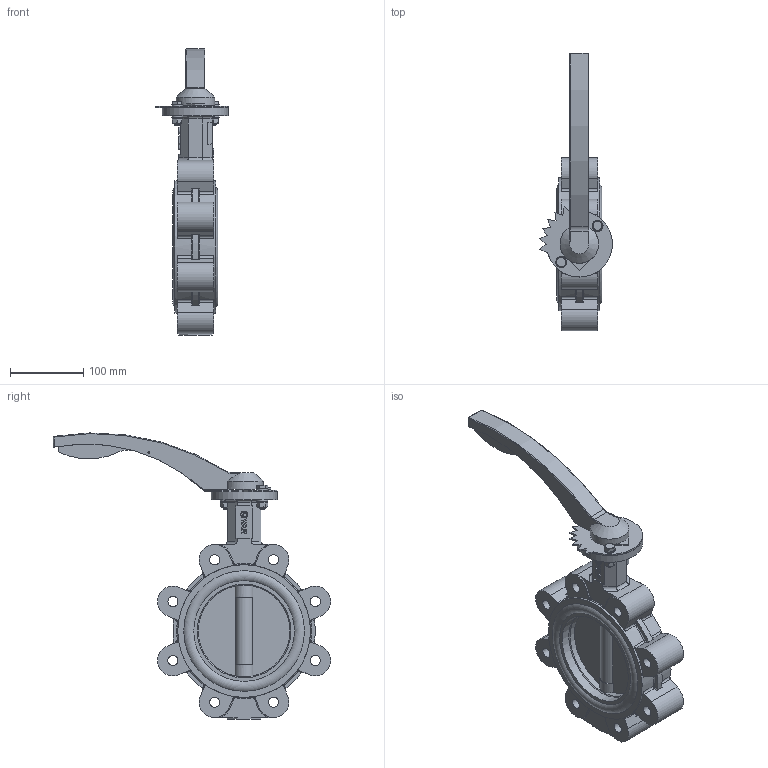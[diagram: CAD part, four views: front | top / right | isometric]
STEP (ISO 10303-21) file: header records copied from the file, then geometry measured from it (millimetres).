
FILE_DESCRIPTION(('STEP AP242'), '1');
FILE_NAME('Ïîâîðîòíûé çàòâîð ïîä ýëåêòðîïðèâîä', '', ('UNSPECIFIED'), ('UNSPECIFIED'), 'C3D Converter', 'C3D Toolkit', '');
FILE_SCHEMA(('AP242_MANAGED_MODEL_BASED_3D_ENGINEERING_MIM_LF { 1 0 10303 442 1 1 4 }'));
Length unit declared in the file: millimetre
Products named in the file (14): П
Assembly tree (20 placements, depth 3):
  (unnamed)
    (unnamed)
    П  x2
    (unnamed)
    (unnamed)
    (unnamed)
    (unnamed)
      (unnamed)
      (unnamed)
      (unnamed)
    (unnamed)  x2
    (unnamed)  x4
    (unnamed)  x2
    (unnamed)  x2
Bounding box: 99.15 x 377.99 x 389.95 mm (x, y, z)
Volume: 1822082.8 mm3; surface area: 398520.1 mm2
Topology: 19 solids, 19 shells, 742 faces, 1873 edges, 1202 vertices
Faces by surface type: plane 342, cylinder 183, extrusion 131, torus 64, cone 18, bspline 2, sphere 2
Full cylindrical faces by diameter (mm): 2 x2, 3 x2, 6 x2, 6.647 x2, 8 x2, 9 x4, 9.137 x1, 10 x6, 13.835 x8, 15 x4, 17 x5, 18.7 x1, 24.042 x5, 26.41 x4, 26.87 x1, 90 x1, 125 x1, 127.5 x2, 137.5 x2, 150.917 x4, 164.333 x4, 180.867 x2
Entity records: 27652 total; most frequent: CARTESIAN_POINT 8456, ORIENTED_EDGE 3410, DIRECTION 3078, EDGE_CURVE 1705, VERTEX_POINT 1142, VECTOR 1034, AXIS2_PLACEMENT_3D 1022, LINE 903
